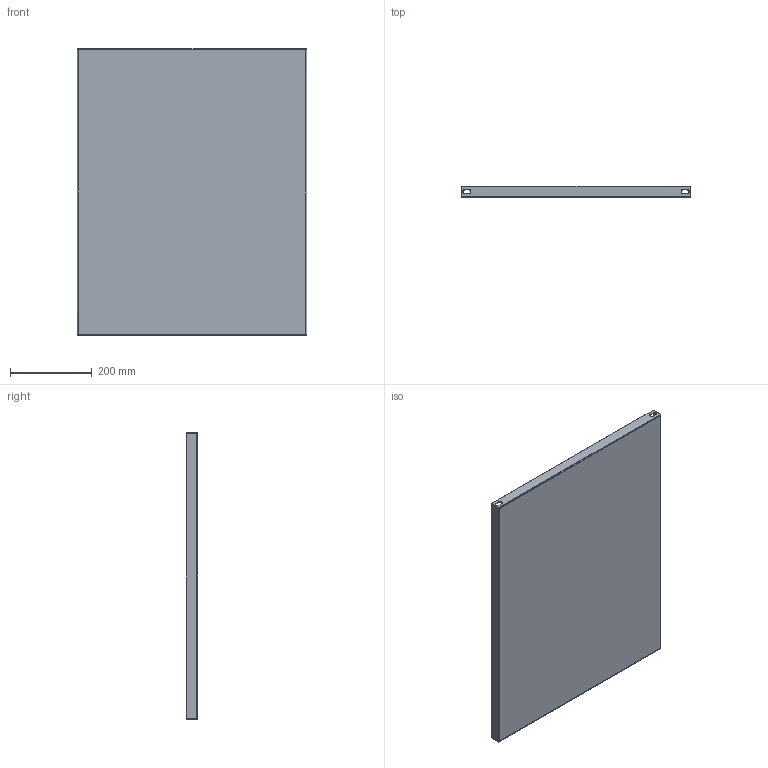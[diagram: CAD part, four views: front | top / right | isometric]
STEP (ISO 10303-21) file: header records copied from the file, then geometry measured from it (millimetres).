
FILE_DESCRIPTION (( 'STEP AP214' ), '1' );
FILE_NAME ('ÐàçäåëèòåëüÃîðèçîíòàëüíûé800x600(259102).STEP', '2018-07-10T08:30:08', ( '' ), ( '' ), 'SwSTEP 2.0', 'SolidWorks 2018', '' );
FILE_SCHEMA (( 'AUTOMOTIVE_DESIGN' ));
Length unit declared in the file: millimetre
Products named in the file (1): ÐàçäåëèòåëüÃîðèçîíòàëüíûé800x600(259102)
Bounding box: 561 x 27 x 700 mm (x, y, z)
Volume: 681765.7 mm3; surface area: 913433.4 mm2
Topology: 1 solids, 1 shells, 58 faces, 136 edges, 80 vertices
Faces by surface type: plane 30, cylinder 20, bspline 8
Entity records: 1974 total; most frequent: CARTESIAN_POINT 671, ORIENTED_EDGE 272, DIRECTION 234, EDGE_CURVE 136, LINE 84, VECTOR 84, VERTEX_POINT 80, AXIS2_PLACEMENT_3D 75
